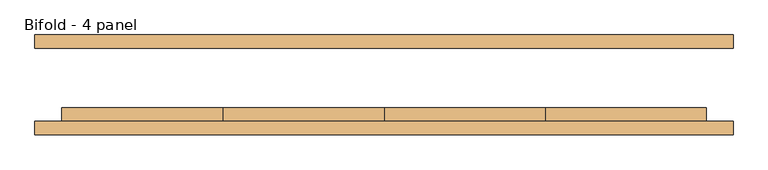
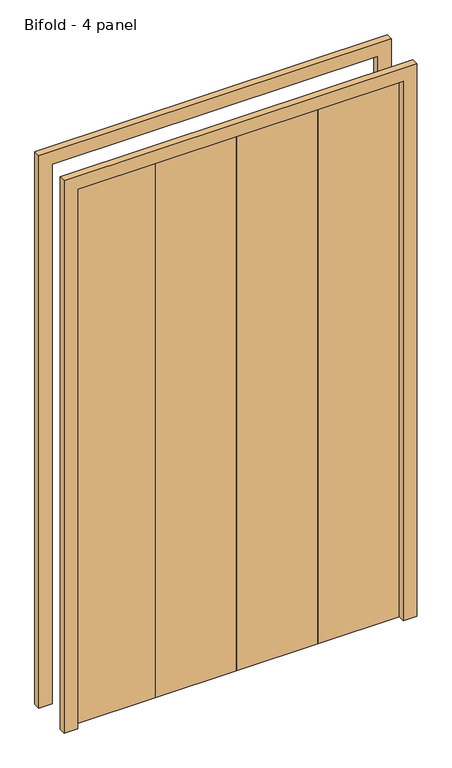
"""IFC4 building model written with IfcOpenShell, lengths in millimetres: door geometry."""

from ifc_helpers import new_model, si_unit, frame, origin, origin_with_axes, place, context, project, spatial, polyline, outline, extrude, source, transform, mapped, element, save


def bifold_4_panel_c9060b8c(model_context):
    return source(origin(), model_context, "Body", "SweptSolid", [
        extrude(outline(polyline([(0.0, 660.4), (2184.4, 660.4), (2184.4, -660.4), (0.0, -660.4), (0.0, -609.6), (2133.6, -609.6), (2133.6, 609.6), (0.0, 609.6), (0.0, 660.4)])), frame((0.0, 76.2, 0.0), z_axis=(0.0, 1.0, 0.0), x_axis=(0.0, 0.0, 1.0)), (0.0, 0.0, 1.0), 25.4),
        extrude(outline(polyline([(0.0, 660.4), (2184.4, 660.4), (2184.4, -660.4), (0.0, -660.4), (0.0, -609.6), (2133.6, -609.6), (2133.6, 609.6), (0.0, 609.6), (0.0, 660.4)])), frame((0.0, -87.3125, 0.0), z_axis=(0.0, 1.0, 0.0), x_axis=(0.0, 0.0, 1.0)), (0.0, 0.0, 1.0), 25.4),
        extrude(outline(polyline([(-609.6, -61.9125), (-609.6, -36.5125), (-304.8, -36.5125), (-304.8, -61.9125), (-609.6, -61.9125)])), origin_with_axes(), (0.0, 0.0, 1.0), 2133.6),
        extrude(outline(polyline([(-304.8, -61.9125), (-304.8, -36.5125), (0.0, -36.5125), (0.0, -61.9125), (-304.8, -61.9125)])), origin_with_axes(), (0.0, 0.0, 1.0), 2133.6),
        extrude(outline(polyline([(0.0, -61.9125), (0.0, -36.5125), (304.8, -36.5125), (304.8, -61.9125), (0.0, -61.9125)])), origin_with_axes(), (0.0, 0.0, 1.0), 2133.6),
        extrude(outline(polyline([(304.8, -61.9125), (304.8, -36.5125), (609.6, -36.5125), (609.6, -61.9125), (304.8, -61.9125)])), origin_with_axes(), (0.0, 0.0, 1.0), 2133.6),
    ])


if __name__ == "__main__":
    model = new_model("IFC4")
    model_context = context("Model", 3, world=origin())
    ifc_project = project(units=[si_unit("LENGTHUNIT", "METRE", prefix="MILLI")], contexts=[model_context])
    site = spatial("IfcSite", under=ifc_project)
    building = spatial("IfcBuilding", under=site)
    placement = place(None, origin())
    bifold_4_panel_shape = bifold_4_panel_c9060b8c(model_context)
    element("IfcDoor", 1, ObjectType="Bifold - 4 panel : 48\" x  84\"", at=placement, inside=building, context=model_context, shape_type="MappedRepresentation", body=[
        mapped(bifold_4_panel_shape, transform((0.0, 0.0, 0.0), x_axis=(1.0, 0.0, 0.0), y_axis=(0.0, 1.0, 0.0), z_axis=(0.0, 0.0, 1.0))),
    ])
    save(model, "model.ifc")
